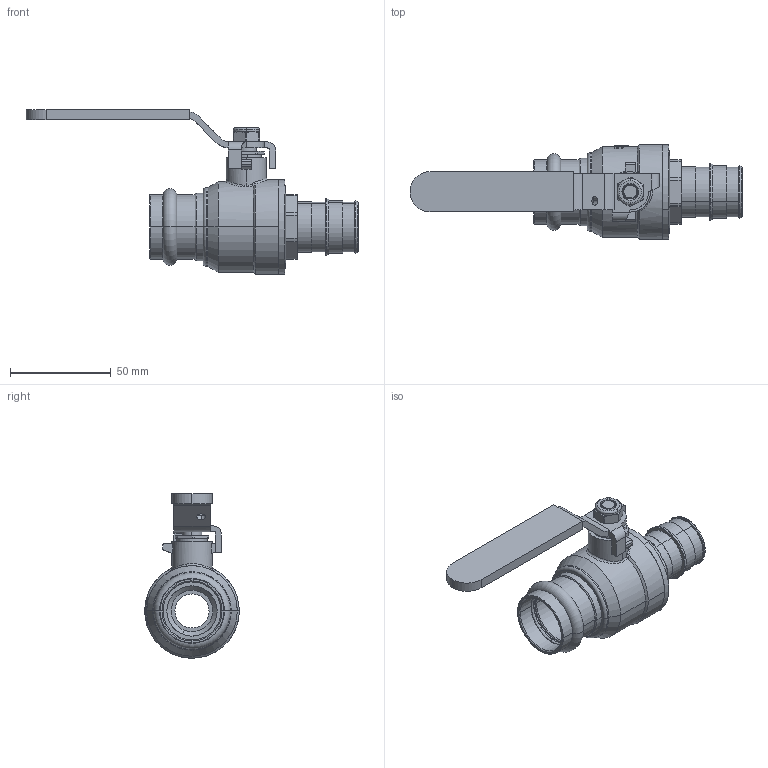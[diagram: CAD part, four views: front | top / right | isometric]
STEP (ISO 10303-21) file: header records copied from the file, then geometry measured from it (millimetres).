
FILE_DESCRIPTION(('Open CASCADE Model'),'2;1');
FILE_NAME('Open CASCADE Shape Model','2021-12-17T11:04:43',('Author'),( 'Open CASCADE'),'Open CASCADE STEP processor 7.3','Open CASCADE 7.3' ,'Unknown');
FILE_SCHEMA(('AUTOMOTIVE_DESIGN { 1 0 10303 214 1 1 1 1 }'));
Length unit declared in the file: millimetre
Products named in the file (13): Open CASCADE STEP translator 7.3 1; Open CASCADE STEP translator 7.3 1.1; Open CASCADE STEP translator 7.3 1.2; Open CASCADE STEP translator 7.3 1.3; Open CASCADE STEP translator 7.3 1.4; Open CASCADE STEP translator 7.3 1.5; Open CASCADE STEP translator 7.3 1.6; Open CASCADE STEP translator 7.3 1.7; Open CASCADE STEP translator 7.3 1.8; Open CASCADE STEP translator 7.3 1.9; Open CASCADE STEP translator 7.3 1.10; Open CASCADE STEP translator 7.3 1.11; Open CASCADE STEP translator 7.3 1.12
Assembly tree (12 placements, depth 2):
  Open CASCADE STEP translator 7.3 1
    Open CASCADE STEP translator 7.3 1.1
    Open CASCADE STEP translator 7.3 1.2
    Open CASCADE STEP translator 7.3 1.3
    Open CASCADE STEP translator 7.3 1.4
    Open CASCADE STEP translator 7.3 1.5
    Open CASCADE STEP translator 7.3 1.6
    Open CASCADE STEP translator 7.3 1.7
    Open CASCADE STEP translator 7.3 1.8
    Open CASCADE STEP translator 7.3 1.9
    Open CASCADE STEP translator 7.3 1.10
    Open CASCADE STEP translator 7.3 1.11
    Open CASCADE STEP translator 7.3 1.12
Bounding box: 165 x 47 x 81.75 mm (x, y, z)
Volume: 71247.4 mm3; surface area: 50671 mm2
Topology: 12 solids, 12 shells, 607 faces, 1558 edges, 1003 vertices
Faces by surface type: cylinder 195, plane 161, bspline 114, cone 91, torus 40, sphere 6
Entity records: 90896 total; most frequent: CARTESIAN_POINT 62752, DIRECTION 4348, ORIENTED_EDGE 3112, PCURVE 3112, DEFINITIONAL_REPRESENTATION 3112, LINE 2147, VECTOR 2147, EDGE_CURVE 1556
